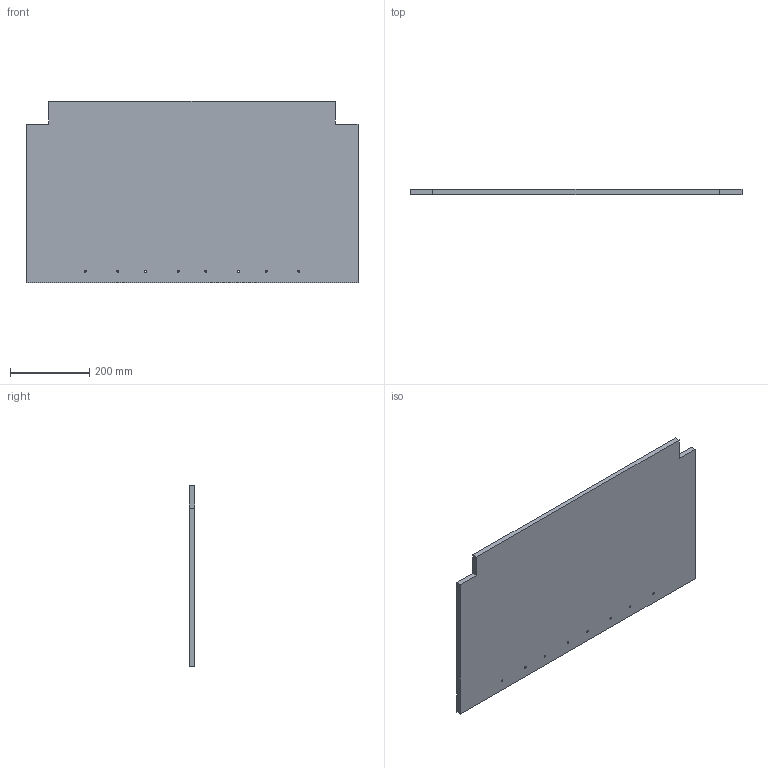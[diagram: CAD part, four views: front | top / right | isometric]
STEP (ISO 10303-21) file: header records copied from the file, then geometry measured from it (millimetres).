
FILE_DESCRIPTION (( 'STEP AP203' ), '1' );
FILE_NAME ('269-18-301.STEP', '2020-03-02T22:25:44', ( '' ), ( '' ), 'SwSTEP 2.0', 'SolidWorks 2017', '' );
FILE_SCHEMA (( 'CONFIG_CONTROL_DESIGN' ));
Length unit declared in the file: inch
Products named in the file (1): 269-18-301
Bounding box: 838.2 x 12.7 x 457.2 mm (x, y, z)
Volume: 4781918.6 mm3; surface area: 787590.8 mm2
Topology: 1 solids, 1 shells, 26 faces, 72 edges, 48 vertices
Faces by surface type: cylinder 16, plane 10
Entity records: 959 total; most frequent: DIRECTION 158, CARTESIAN_POINT 147, ORIENTED_EDGE 144, EDGE_CURVE 72, AXIS2_PLACEMENT_3D 59, VERTEX_POINT 48, EDGE_LOOP 42, VECTOR 40
